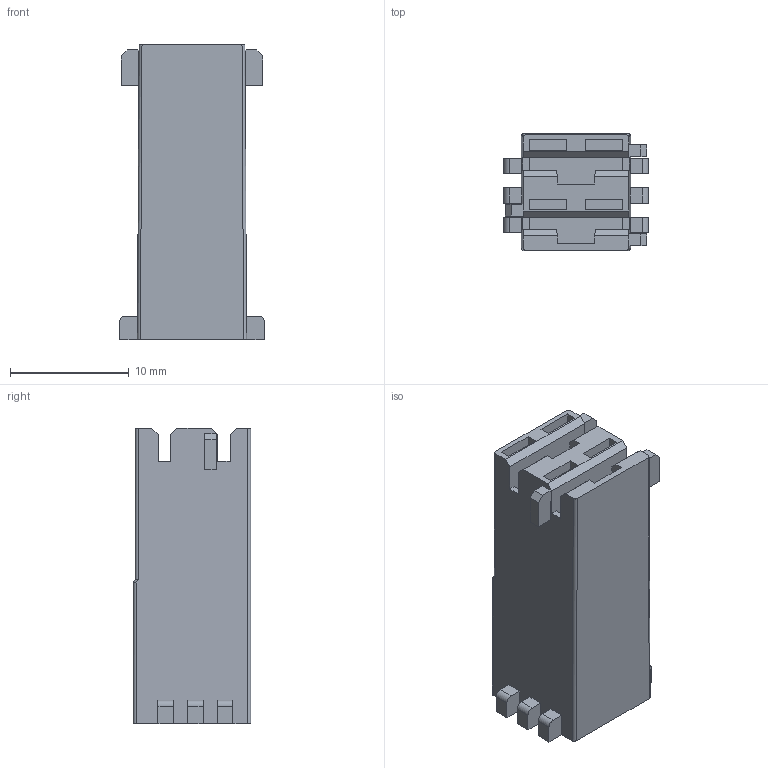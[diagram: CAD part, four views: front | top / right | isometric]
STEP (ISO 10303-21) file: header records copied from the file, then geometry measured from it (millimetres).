
FILE_DESCRIPTION((''),'2;1');
FILE_NAME('C-521204-4','2021-10-05T01:25:06',('workeradm'),('TE Connectivity Ltd.'),'CREO PARAMETRIC BY PTC INC, 2021072','CREO PARAMETRIC BY PTC INC, 2021072','');
FILE_SCHEMA(('AUTOMOTIVE_DESIGN { 1 0 10303 214 1 1 1 1 }'));
Length unit declared in the file: millimetre
Products named in the file (1): C-521204-4
Bounding box: 12.18 x 9.88 x 24.89 mm (x, y, z)
Volume: 2045.5 mm3; surface area: 1418.9 mm2
Topology: 1 solids, 1 shells, 132 faces, 359 edges, 238 vertices
Faces by surface type: plane 118, cylinder 14
Entity records: 4299 total; most frequent: CARTESIAN_POINT 795, ORIENTED_EDGE 718, DIRECTION 623, EDGE_CURVE 359, VECTOR 335, LINE 335, VERTEX_POINT 238, AXIS2_PLACEMENT_3D 144
